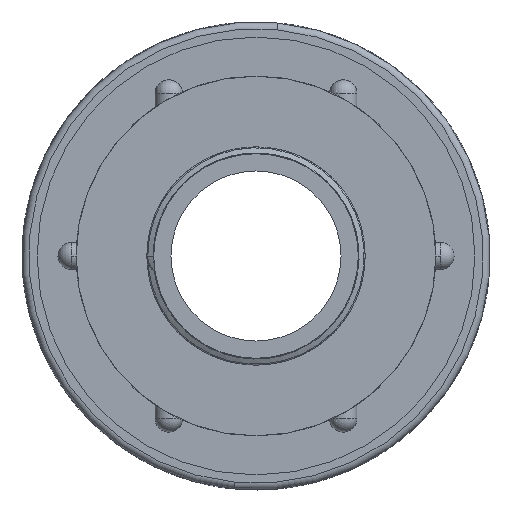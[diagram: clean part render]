
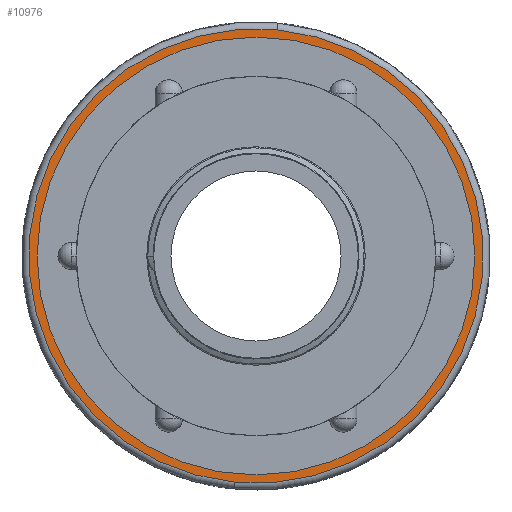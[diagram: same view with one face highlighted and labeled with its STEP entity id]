
A CAD part, left-side view. The second image highlights one B-rep face of the part: STEP entity #10976.
In plain terms, the highlighted planar face has unit normal (-1, 0, 0).
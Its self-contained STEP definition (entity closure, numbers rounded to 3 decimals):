
#178 = CARTESIAN_POINT ( 'NONE',  ( 0., 51.3, 0. ) ) ;
#183 = FACE_OUTER_BOUND ( 'NONE', #7269, .T. ) ;
#184 = FACE_BOUND ( 'NONE', #3733, .T. ) ;
#185 = PLANE ( 'NONE',  #22269 ) ;
#187 = DIRECTION ( 'NONE',  ( -1., 0., 0. ) ) ;
#188 = DIRECTION ( 'NONE',  ( 0., 0., 1. ) ) ;
#1534 = CARTESIAN_POINT ( 'NONE',  ( 0., 0., 49.8 ) ) ;
#1640 = CARTESIAN_POINT ( 'NONE',  ( 0., 0., -44.8 ) ) ;
#1722 = CARTESIAN_POINT ( 'NONE',  ( 0., 0., 44.8 ) ) ;
#1723 = CARTESIAN_POINT ( 'NONE',  ( 0., 0., -49.8 ) ) ;
#3733 = EDGE_LOOP ( 'NONE', ( #8396, #8397 ) ) ;
#7269 = EDGE_LOOP ( 'NONE', ( #8394, #8395 ) ) ;
#7795 = EDGE_CURVE ( 'NONE', #11271, #11354, #13924, .T. ) ;
#8394 = ORIENTED_EDGE ( 'NONE', *, *, #10783, .T. ) ;
#8395 = ORIENTED_EDGE ( 'NONE', *, *, #10619, .T. ) ;
#8396 = ORIENTED_EDGE ( 'NONE', *, *, #7795, .T. ) ;
#8397 = ORIENTED_EDGE ( 'NONE', *, *, #10831, .T. ) ;
#10619 = EDGE_CURVE ( 'NONE', #11355, #11165, #13941, .T. ) ;
#10783 = EDGE_CURVE ( 'NONE', #11165, #11355, #22132, .T. ) ;
#10831 = EDGE_CURVE ( 'NONE', #11354, #11271, #22198, .T. ) ;
#10976 = ADVANCED_FACE ( 'NONE', ( #183, #184 ), #185, .T. ) ;
#11165 = VERTEX_POINT ( 'NONE', #1534 ) ;
#11271 = VERTEX_POINT ( 'NONE', #1640 ) ;
#11354 = VERTEX_POINT ( 'NONE', #1722 ) ;
#11355 = VERTEX_POINT ( 'NONE', #1723 ) ;
#13924 = CIRCLE ( 'NONE', #13925, 44.8 ) ;
#13925 = AXIS2_PLACEMENT_3D ( 'NONE', #20055, #20056, #20057 ) ;
#13941 = CIRCLE ( 'NONE', #13942, 49.8 ) ;
#13942 = AXIS2_PLACEMENT_3D ( 'NONE', #20712, #20713, #20714 ) ;
#20055 = CARTESIAN_POINT ( 'NONE',  ( 0., 0., 0. ) ) ;
#20056 = DIRECTION ( 'NONE',  ( 1., 0., 0. ) ) ;
#20057 = DIRECTION ( 'NONE',  ( 0., 0., -1. ) ) ;
#20712 = CARTESIAN_POINT ( 'NONE',  ( 0., 0., 0. ) ) ;
#20713 = DIRECTION ( 'NONE',  ( -1., 0., 0. ) ) ;
#20714 = DIRECTION ( 'NONE',  ( 0., 0., 1. ) ) ;
#21706 = CARTESIAN_POINT ( 'NONE',  ( 0., 0., 0. ) ) ;
#21707 = DIRECTION ( 'NONE',  ( -1., 0., 0. ) ) ;
#21708 = DIRECTION ( 'NONE',  ( 0., 0., 1. ) ) ;
#22132 = CIRCLE ( 'NONE', #22137, 49.8 ) ;
#22137 = AXIS2_PLACEMENT_3D ( 'NONE', #21706, #21707, #21708 ) ;
#22198 = CIRCLE ( 'NONE', #22200, 44.8 ) ;
#22200 = AXIS2_PLACEMENT_3D ( 'NONE', #23088, #23089, #23090 ) ;
#22269 = AXIS2_PLACEMENT_3D ( 'NONE', #178, #187, #188 ) ;
#23088 = CARTESIAN_POINT ( 'NONE',  ( 0., 0., 0. ) ) ;
#23089 = DIRECTION ( 'NONE',  ( 1., 0., 0. ) ) ;
#23090 = DIRECTION ( 'NONE',  ( 0., 0., -1. ) ) ;
